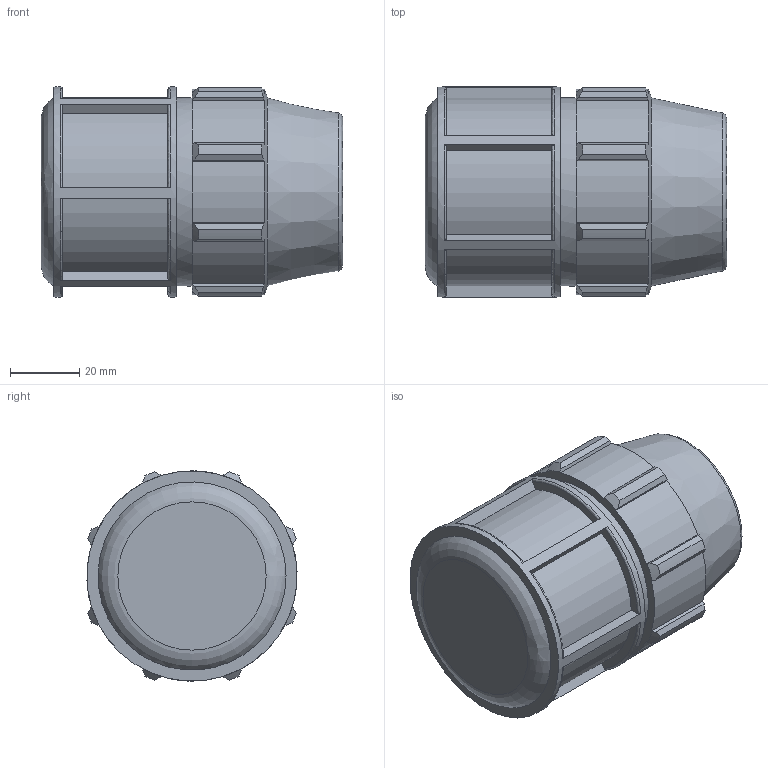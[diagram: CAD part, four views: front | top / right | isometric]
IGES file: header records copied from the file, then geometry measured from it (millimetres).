
Global section: file name: 0712M0100.ipt; native system: Autodesk Inventor 2019; preprocessor: unknown; author: Кирилл,,11,0; organization: 20170224.180708; date: 20210826.124722; units: inch
Bounding box: 87.12 x 60.75 x 60.81 mm (x, y, z)
Volume: 137367 mm3; surface area: 31973 mm2
Topology: 1 solids, 1 shells, 115 faces, 313 edges, 210 vertices
Faces by surface type: plane 63, cylinder 24, revolution 18, cone 10
Full cylindrical faces by diameter (mm): 54.407 x1, 60.808 x1
